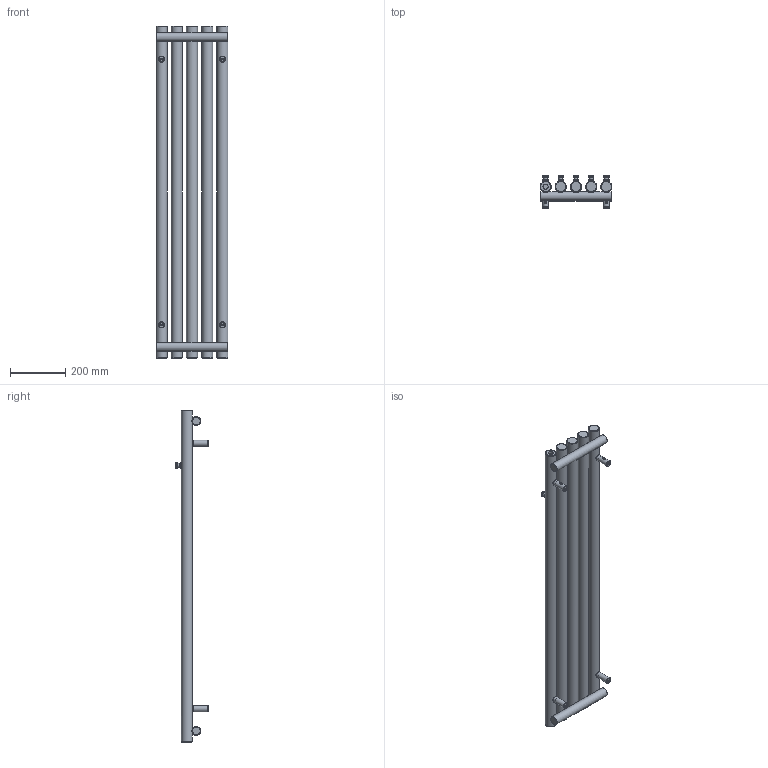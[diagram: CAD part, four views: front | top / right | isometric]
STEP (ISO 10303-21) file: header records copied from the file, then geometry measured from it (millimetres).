
FILE_DESCRIPTION(/* description */ (''),/* implementation_level */ '2;1');
FILE_NAME(/* name */ 'Z:\R\G\P\RGP116 - Grzejniki Geyser\Work\Inventor\Circolo (Rolo V, Rolo H)\ROLO-HANGER\Marketing\Bryły\Zaokrąglone\WGROW120026-SX-CK-(Z).stp',/* time_stamp */ '2024-03-26T15:32:04+01:00',/* author */ ('NowAd'),/* organization */ (''),/* preprocessor_version */ 'ST-DEVELOPER v17.2',/* originating_system */ 'Autodesk Inventor 2019',/* authorisation */ '');
FILE_SCHEMA (('AUTOMOTIVE_DESIGN { 1 0 10303 214 3 1 1 }'));
Length unit declared in the file: millimetre
Products named in the file (3): WGROR120026-SX-CK-(Z); PGROR120026-SX-CK-(K); CK-V-fi40 marketing
Assembly tree (5 placements, depth 2):
  WGROR120026-SX-CK-(Z)
    PGROR120026-SX-CK-(K)
    CK-V-fi40 marketing  x4
Bounding box: 260 x 116.5 x 1200 mm (x, y, z)
Volume: 8021142.2 mm3; surface area: 855173.8 mm2
Topology: 5 solids, 5 shells, 379 faces, 964 edges, 653 vertices
Faces by surface type: plane 148, cylinder 89, torus 67, cone 60, bspline 15
Full cylindrical faces by diameter (mm): 4.134 x4, 4.48 x4, 6.4 x4, 10 x4, 12 x4, 14 x5, 15.834 x4, 16 x4, 18.631 x3, 20 x10, 22 x4, 32 x2, 40 x5
Entity records: 9048 total; most frequent: CARTESIAN_POINT 4113, DIRECTION 1079, ORIENTED_EDGE 976, AXIS2_PLACEMENT_3D 492, EDGE_CURVE 488, VERTEX_POINT 340, CIRCLE 295, EDGE_LOOP 250
